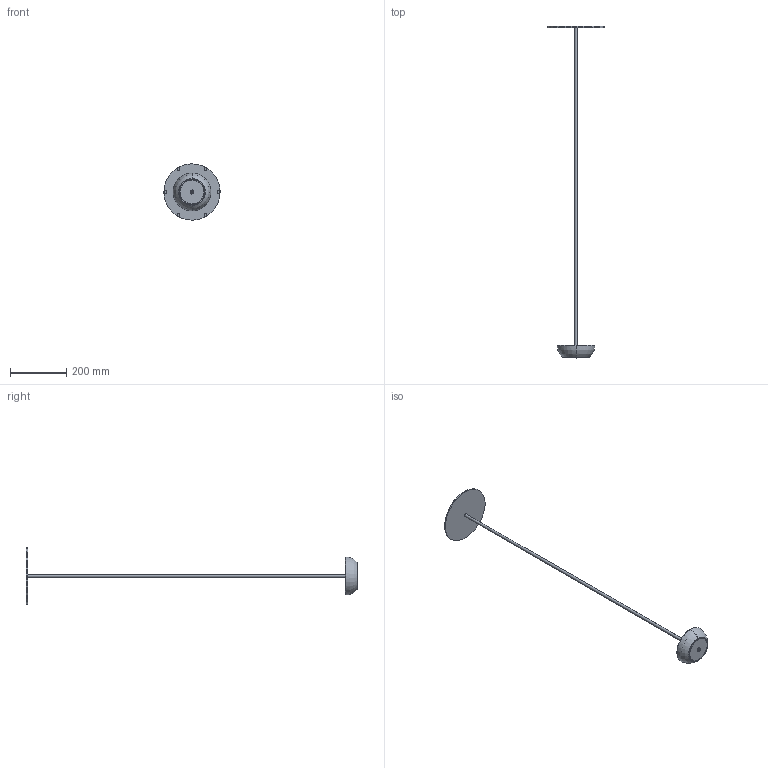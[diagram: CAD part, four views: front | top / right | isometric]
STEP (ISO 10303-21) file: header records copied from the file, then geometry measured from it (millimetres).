
FILE_DESCRIPTION (( 'STEP AP203' ), '1' );
FILE_NAME ('PTFLOAT 3D.STEP', '2020-06-15T07:30:10', ( '' ), ( '' ), 'SwSTEP 2.0', 'SolidWorks 2019', '' );
FILE_SCHEMA (( 'CONFIG_CONTROL_DESIGN' ));
Length unit declared in the file: millimetre
Products named in the file (12): Adesivo Funnel^PTFLOAT 3D; Adesivo Touch^PTFLOAT 3D; AXO077-01 - TouchSensor; URBAN-PL1-02-V1; AXO077-09_Asta_Terra; AXO077-02 - Funnel; AXO077-04 - Diffuser; AXO077-12_Base_Terra; piedino_silicone_Ø10; AXO077-00 - PL WRAP-3; PTFLOAT 3D; Adesivo PMMA^PTFLOAT 3D
Assembly tree (16 placements, depth 2):
  PTFLOAT 3D
    URBAN-PL1-02-V1
    AXO077-00 - PL WRAP-3
    AXO077-01 - TouchSensor
    AXO077-02 - Funnel
    AXO077-04 - Diffuser
    AXO077-09_Asta_Terra
    AXO077-12_Base_Terra
    Adesivo Touch^PTFLOAT 3D
    Adesivo Funnel^PTFLOAT 3D
    Adesivo PMMA^PTFLOAT 3D
    piedino_silicone_Ø10  x6
Bounding box: 200 x 1179.7 x 199.7 mm (x, y, z)
Volume: 324712.1 mm3; surface area: 213009.4 mm2
Topology: 16 solids, 16 shells, 258 faces, 577 edges, 369 vertices
Faces by surface type: cylinder 139, plane 44, cone 38, torus 16, sphere 12, bspline 9
Entity records: 12407 total; most frequent: CARTESIAN_POINT 5888, DIRECTION 1118, ORIENTED_EDGE 1054, EDGE_CURVE 527, AXIS2_PLACEMENT_3D 477, VERTEX_POINT 334, EDGE_LOOP 277, CIRCLE 234
